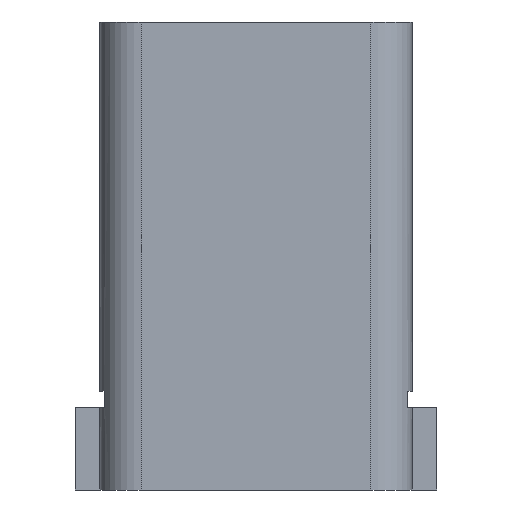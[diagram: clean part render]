
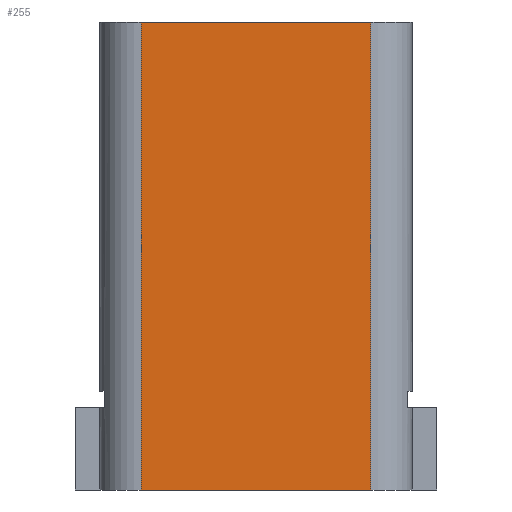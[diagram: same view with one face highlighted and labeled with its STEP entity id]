
A CAD part, left-side view. The second image highlights one B-rep face of the part: STEP entity #255.
In plain terms, the highlighted planar face has unit normal (-1, 0, 0).
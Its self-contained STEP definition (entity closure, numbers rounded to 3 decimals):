
#255=ADVANCED_FACE('',(#596),#598,.T.);
#596=FACE_BOUND('',#597,.T.);
#597=EDGE_LOOP('',(#874,#875,#876,#877));
#598=PLANE('',#599);
#599=AXIS2_PLACEMENT_3D('',#600,#601,#602);
#600=CARTESIAN_POINT('',(-55.,19.,0.));
#601=DIRECTION('',(-1.,0.,0.));
#602=DIRECTION('',(0.,-1.,0.));
#874=ORIENTED_EDGE('',*,*,#990,.F.);
#875=ORIENTED_EDGE('',*,*,#1049,.T.);
#876=ORIENTED_EDGE('',*,*,#997,.T.);
#877=ORIENTED_EDGE('',*,*,#1050,.F.);
#990=EDGE_CURVE('',#1125,#1127,#1128,.T.);
#997=EDGE_CURVE('',#1140,#1138,#1141,.T.);
#1049=EDGE_CURVE('',#1125,#1140,#1224,.T.);
#1050=EDGE_CURVE('',#1127,#1138,#1225,.T.);
#1125=VERTEX_POINT('',#1361);
#1127=VERTEX_POINT('',#1366);
#1128=LINE('',#1367,#1368);
#1138=VERTEX_POINT('',#1391);
#1140=VERTEX_POINT('',#1396);
#1141=LINE('',#1397,#1398);
#1224=LINE('',#1595,#1596);
#1225=LINE('',#1598,#1599);
#1361=CARTESIAN_POINT('',(-55.,14.,0.));
#1366=CARTESIAN_POINT('',(-55.,14.,57.));
#1367=CARTESIAN_POINT('',(-55.,14.,0.));
#1368=VECTOR('',#1369,1.);
#1369=DIRECTION('',(0.,0.,1.));
#1391=CARTESIAN_POINT('',(-55.,-14.,57.));
#1396=CARTESIAN_POINT('',(-55.,-14.,0.));
#1397=CARTESIAN_POINT('',(-55.,-14.,0.));
#1398=VECTOR('',#1399,1.);
#1399=DIRECTION('',(0.,0.,1.));
#1595=CARTESIAN_POINT('',(-55.,14.,0.));
#1596=VECTOR('',#1597,1.);
#1597=DIRECTION('',(0.,-1.,0.));
#1598=CARTESIAN_POINT('',(-55.,14.,57.));
#1599=VECTOR('',#1600,1.);
#1600=DIRECTION('',(0.,-1.,0.));
